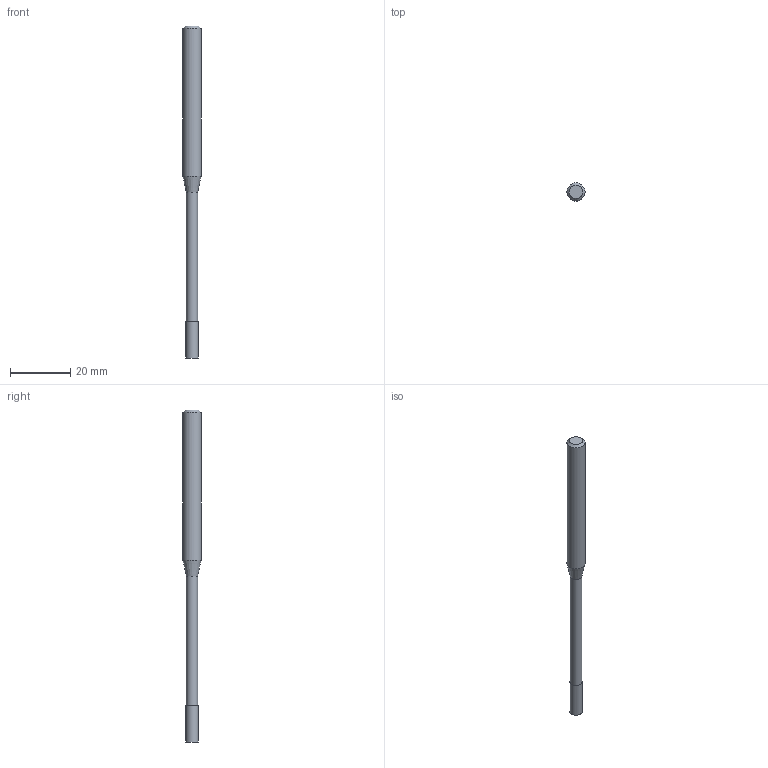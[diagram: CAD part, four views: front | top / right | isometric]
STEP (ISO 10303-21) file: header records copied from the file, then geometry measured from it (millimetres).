
FILE_DESCRIPTION((''),'2;1');
FILE_NAME('C:\Users\nsx150\Desktop\RSE230_20210427\01-00644-04055 RSE230 D4X12X55.step','2021-05-07T14:54:15',(''),(''),'STEP Write','Mastercam 2021 ... CNC Software, Inc.','');
FILE_SCHEMA(('AUTOMOTIVE_DESIGN'));
Length unit declared in the file: millimetre
Products named in the file (1): None
Bounding box: 6 x 6 x 110 mm (x, y, z)
Volume: 2141 mm3; surface area: 1739.8 mm2
Topology: 2 solids, 2 shells, 9 faces, 12 edges, 7 vertices
Faces by surface type: plane 4, cylinder 3, cone 2
Full cylindrical faces by diameter (mm): 3.8 x1, 4 x1, 6 x1
Entity records: 211 total; most frequent: DIRECTION 36, CARTESIAN_POINT 25, AXIS2_PLACEMENT_3D 18, ORIENTED_EDGE 14, EDGE_LOOP 14, STYLED_ITEM 12, ADVANCED_FACE 9, FACE_BOUND 8
